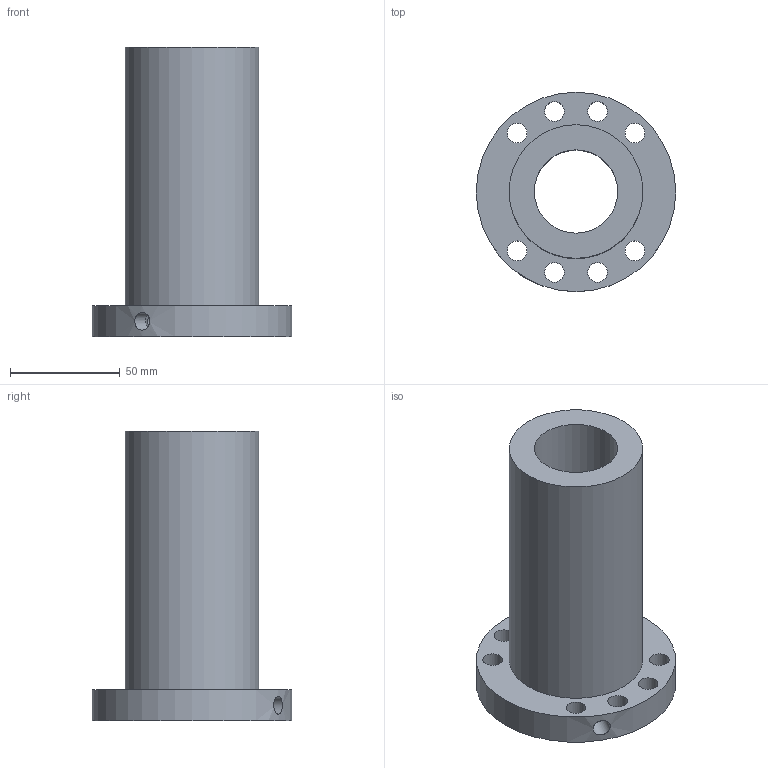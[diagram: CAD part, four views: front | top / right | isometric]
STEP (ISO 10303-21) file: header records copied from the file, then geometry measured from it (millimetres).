
FILE_DESCRIPTION(/* description */ (''),/* implementation_level */ '2;1');
FILE_NAME(/* name */ '38-8K5_4763',/* time_stamp */ '2007-10-15T12:53:58+08:00',/* author */ (''),/* organization */ (''),/* preprocessor_version */ 'ST-DEVELOPER v11',/* originating_system */ 'UGS - NX 5.0',/* authorisation */ '');
FILE_SCHEMA (('CONFIG_CONTROL_DESIGN'));
Length unit declared in the file: millimetre
Products named in the file (1): 38-8K5_4763
Bounding box: 91 x 91 x 132 mm (x, y, z)
Volume: 278108.8 mm3; surface area: 55767.9 mm2
Topology: 1 solids, 1 shells, 17 faces, 40 edges, 27 vertices
Faces by surface type: cylinder 13, plane 4
Full cylindrical faces by diameter (mm): 6 x1, 8 x1, 9 x8, 38 x1, 61 x1, 91 x1
Entity records: 668 total; most frequent: CARTESIAN_POINT 184, DIRECTION 84, FACE_BOUND 52, EDGE_LOOP 52, ORIENTED_EDGE 52, AXIS2_PLACEMENT_3D 42, VERTEX_POINT 26, EDGE_CURVE 26
